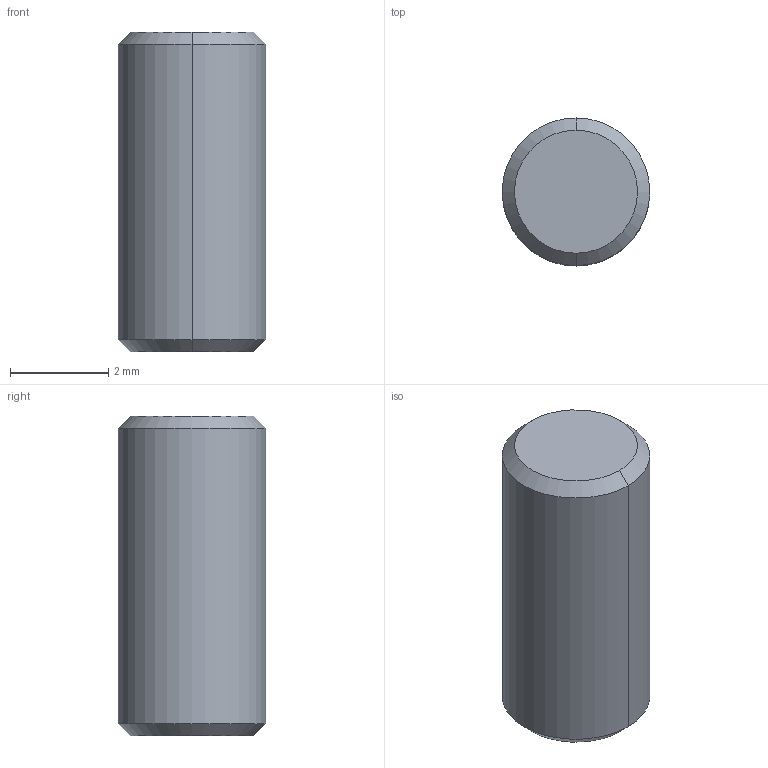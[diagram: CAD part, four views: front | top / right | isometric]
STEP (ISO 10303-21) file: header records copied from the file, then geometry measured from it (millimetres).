
FILE_DESCRIPTION(/* description */ ('VariCAD 2010-3.03 AP-214'),/* implementation_level */ '2;1');
FILE_NAME(/* name */ '0353-84-04',/* time_stamp */ '2011-02-28T17:07:38-07:00',/* author */ (''),/* organization */ (''),/* preprocessor_version */ 'ST-DEVELOPER v12',/* originating_system */ 'VariCAD 2010-3.03; kernel version (20100102)',/* authorisation */ '');
FILE_SCHEMA (('AUTOMOTIVE_DESIGN'));
Length unit declared in the file: millimetre
Products named in the file (1): Part
Bounding box: 3 x 3 x 6.5 mm (x, y, z)
Volume: 45.4 mm3; surface area: 72.5 mm2
Topology: 1 solids, 1 shells, 8 faces, 14 edges, 8 vertices
Faces by surface type: cone 4, cylinder 2, plane 2
Entity records: 221 total; most frequent: DIRECTION 42, CARTESIAN_POINT 32, ORIENTED_EDGE 28, AXIS2_PLACEMENT_3D 18, EDGE_CURVE 14, ADVANCED_FACE 8, FACE_OUTER_BOUND 8, EDGE_LOOP 8
